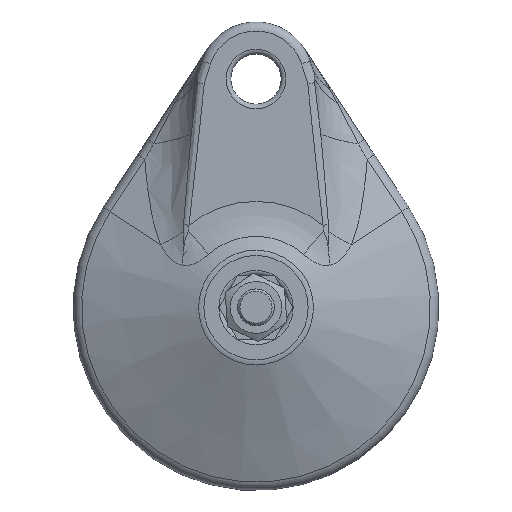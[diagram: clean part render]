
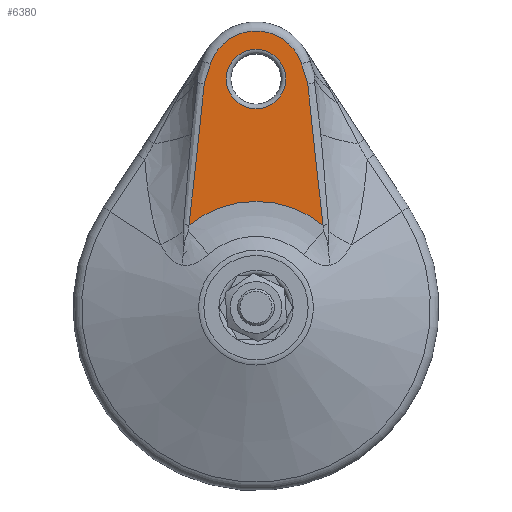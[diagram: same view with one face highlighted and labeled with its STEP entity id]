
A CAD part, top view. The second image highlights one B-rep face of the part: STEP entity #6380.
In plain terms, the highlighted planar face has unit normal (0, 0, 1).
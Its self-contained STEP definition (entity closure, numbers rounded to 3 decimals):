
#52=FACE_BOUND('',#1871,.T.);
#190=PLANE('',#7048);
#1560=FACE_OUTER_BOUND('',#1870,.T.);
#1870=EDGE_LOOP('',(#5263,#5264,#5265,#5266,#5267,#5268,#5269,#5270,#5271,
#5272));
#1871=EDGE_LOOP('',(#5273,#5274));
#2105=B_SPLINE_CURVE_WITH_KNOTS('',3,(#12278,#12279,#12280,#12281,#12282,
#12283,#12284,#12285,#12286,#12287),.UNSPECIFIED.,.F.,.F.,(4,2,2,2,4),(4.76,
5.372,10.744,16.117,19.872),
 .UNSPECIFIED.);
#2108=B_SPLINE_CURVE_WITH_KNOTS('',3,(#12361,#12362,#12363,#12364,#12365,
#12366),.UNSPECIFIED.,.F.,.F.,(4,2,4),(-11.228,0.,1.411),
 .UNSPECIFIED.);
#2111=B_SPLINE_CURVE_WITH_KNOTS('',3,(#12768,#12769,#12770,#12771,#12772,
#12773,#12774,#12775,#12776,#12777),.UNSPECIFIED.,.F.,.F.,(4,3,3,4),(-4.569,
-3.409,-2.248,0.),.UNSPECIFIED.);
#2143=B_SPLINE_CURVE_WITH_KNOTS('',3,(#16865,#16866,#16867,#16868,#16869,
#16870,#16871,#16872,#16873,#16874),.UNSPECIFIED.,.F.,.F.,(4,3,3,4),(-4.569,
-3.409,-2.248,0.),.UNSPECIFIED.);
#2144=B_SPLINE_CURVE_WITH_KNOTS('',3,(#16876,#16877,#16878,#16879,#16880,
#16881),.UNSPECIFIED.,.F.,.F.,(4,2,4),(-11.228,0.,1.411),
 .UNSPECIFIED.);
#2145=B_SPLINE_CURVE_WITH_KNOTS('',3,(#16884,#16885,#16886,#16887,#16888,
#16889,#16890,#16891,#16892,#16893),.UNSPECIFIED.,.F.,.F.,(4,2,2,2,4),(4.76,
5.372,10.744,16.117,19.872),
 .UNSPECIFIED.);
#2203=CIRCLE('',#6722,6.5);
#2204=CIRCLE('',#6723,6.5);
#2322=CIRCLE('',#6902,4408.891);
#2402=CIRCLE('',#7045,23.226);
#2405=CIRCLE('',#7049,10.5);
#2406=CIRCLE('',#7050,4408.891);
#2558=VERTEX_POINT('',#9276);
#2559=VERTEX_POINT('',#9277);
#2793=VERTEX_POINT('',#12059);
#2794=VERTEX_POINT('',#12275);
#2795=VERTEX_POINT('',#12276);
#2797=VERTEX_POINT('',#12329);
#2800=VERTEX_POINT('',#12766);
#2957=VERTEX_POINT('',#16848);
#2960=VERTEX_POINT('',#16862);
#2961=VERTEX_POINT('',#16864);
#2962=VERTEX_POINT('',#16875);
#2963=VERTEX_POINT('',#16882);
#3290=EDGE_CURVE('',#2558,#2559,#2203,.T.);
#3291=EDGE_CURVE('',#2559,#2558,#2204,.T.);
#3573=EDGE_CURVE('',#2794,#2795,#2322,.T.);
#3574=EDGE_CURVE('',#2795,#2793,#2105,.T.);
#3577=EDGE_CURVE('',#2797,#2794,#2108,.T.);
#3581=EDGE_CURVE('',#2800,#2797,#2111,.T.);
#3817=EDGE_CURVE('',#2793,#2957,#2402,.T.);
#3821=EDGE_CURVE('',#2800,#2960,#2405,.T.);
#3822=EDGE_CURVE('',#2960,#2961,#2143,.T.);
#3823=EDGE_CURVE('',#2961,#2962,#2144,.T.);
#3824=EDGE_CURVE('',#2962,#2963,#2406,.T.);
#3825=EDGE_CURVE('',#2963,#2957,#2145,.T.);
#5263=ORIENTED_EDGE('',*,*,#3817,.F.);
#5264=ORIENTED_EDGE('',*,*,#3574,.F.);
#5265=ORIENTED_EDGE('',*,*,#3573,.F.);
#5266=ORIENTED_EDGE('',*,*,#3577,.F.);
#5267=ORIENTED_EDGE('',*,*,#3581,.F.);
#5268=ORIENTED_EDGE('',*,*,#3821,.T.);
#5269=ORIENTED_EDGE('',*,*,#3822,.T.);
#5270=ORIENTED_EDGE('',*,*,#3823,.T.);
#5271=ORIENTED_EDGE('',*,*,#3824,.T.);
#5272=ORIENTED_EDGE('',*,*,#3825,.T.);
#5273=ORIENTED_EDGE('',*,*,#3290,.T.);
#5274=ORIENTED_EDGE('',*,*,#3291,.T.);
#6380=ADVANCED_FACE('',(#1560,#52),#190,.F.);
#6722=AXIS2_PLACEMENT_3D('',#9278,#7448,#7449);
#6723=AXIS2_PLACEMENT_3D('',#9279,#7450,#7451);
#6902=AXIS2_PLACEMENT_3D('',#12277,#7918,#7919);
#7045=AXIS2_PLACEMENT_3D('',#16849,#8320,#8321);
#7048=AXIS2_PLACEMENT_3D('',#16861,#8326,#8327);
#7049=AXIS2_PLACEMENT_3D('',#16863,#8328,#8329);
#7050=AXIS2_PLACEMENT_3D('',#16883,#8330,#8331);
#7448=DIRECTION('center_axis',(0.,0.,-1.));
#7449=DIRECTION('ref_axis',(0.,1.,0.));
#7450=DIRECTION('center_axis',(0.,0.,-1.));
#7451=DIRECTION('ref_axis',(0.,1.,0.));
#7918=DIRECTION('center_axis',(0.,0.,1.));
#7919=DIRECTION('ref_axis',(-0.994,-0.106,0.));
#8320=DIRECTION('center_axis',(0.,0.,1.));
#8321=DIRECTION('ref_axis',(-0.663,-0.749,0.));
#8326=DIRECTION('center_axis',(0.,0.,-1.));
#8327=DIRECTION('ref_axis',(-1.,0.,0.));
#8328=DIRECTION('center_axis',(0.,0.,1.));
#8329=DIRECTION('ref_axis',(-0.478,0.878,0.));
#8330=DIRECTION('center_axis',(0.,0.,-1.));
#8331=DIRECTION('ref_axis',(0.994,-0.106,0.));
#9276=CARTESIAN_POINT('',(0.,43.5,17.5));
#9277=CARTESIAN_POINT('',(6.5,50.,17.5));
#9278=CARTESIAN_POINT('Origin',(0.,50.,17.5));
#9279=CARTESIAN_POINT('Origin',(0.,50.,17.5));
#12059=CARTESIAN_POINT('',(14.659,18.016,17.5));
#12275=CARTESIAN_POINT('',(12.64,36.366,17.5));
#12276=CARTESIAN_POINT('',(12.995,33.037,17.5));
#12277=CARTESIAN_POINT('Origin',(4396.911,501.648,17.5));
#12278=CARTESIAN_POINT('Ctrl Pts',(12.995,33.037,17.5));
#12279=CARTESIAN_POINT('Ctrl Pts',(13.016,32.834,17.5));
#12280=CARTESIAN_POINT('Ctrl Pts',(13.038,32.631,17.5));
#12281=CARTESIAN_POINT('Ctrl Pts',(13.25,30.647,17.5));
#12282=CARTESIAN_POINT('Ctrl Pts',(13.442,28.867,17.5));
#12283=CARTESIAN_POINT('Ctrl Pts',(13.831,25.306,17.5));
#12284=CARTESIAN_POINT('Ctrl Pts',(14.027,23.526,17.5));
#12285=CARTESIAN_POINT('Ctrl Pts',(14.369,20.503,17.5));
#12286=CARTESIAN_POINT('Ctrl Pts',(14.512,19.259,17.5));
#12287=CARTESIAN_POINT('Ctrl Pts',(14.659,18.016,17.5));
#12329=CARTESIAN_POINT('',(11.317,48.936,17.5));
#12361=CARTESIAN_POINT('Ctrl Pts',(11.317,48.936,17.5));
#12362=CARTESIAN_POINT('Ctrl Pts',(11.706,45.214,17.5));
#12363=CARTESIAN_POINT('Ctrl Pts',(12.097,41.492,17.5));
#12364=CARTESIAN_POINT('Ctrl Pts',(12.541,37.302,17.5));
#12365=CARTESIAN_POINT('Ctrl Pts',(12.59,36.834,17.5));
#12366=CARTESIAN_POINT('Ctrl Pts',(12.64,36.366,17.5));
#12766=CARTESIAN_POINT('',(9.968,53.301,17.5));
#12768=CARTESIAN_POINT('Ctrl Pts',(9.968,53.301,17.5));
#12769=CARTESIAN_POINT('Ctrl Pts',(10.09,52.934,17.5));
#12770=CARTESIAN_POINT('Ctrl Pts',(10.21,52.567,17.5));
#12771=CARTESIAN_POINT('Ctrl Pts',(10.328,52.198,17.5));
#12772=CARTESIAN_POINT('Ctrl Pts',(10.447,51.83,17.5));
#12773=CARTESIAN_POINT('Ctrl Pts',(10.564,51.462,17.5));
#12774=CARTESIAN_POINT('Ctrl Pts',(10.678,51.092,17.5));
#12775=CARTESIAN_POINT('Ctrl Pts',(10.901,50.376,17.5));
#12776=CARTESIAN_POINT('Ctrl Pts',(11.115,49.658,17.5));
#12777=CARTESIAN_POINT('Ctrl Pts',(11.317,48.936,17.5));
#16848=CARTESIAN_POINT('',(-14.659,18.016,17.5));
#16849=CARTESIAN_POINT('Origin',(0.,0.,
17.5));
#16861=CARTESIAN_POINT('Origin',(0.,60.5,
17.5));
#16862=CARTESIAN_POINT('',(-9.967,53.301,17.5));
#16863=CARTESIAN_POINT('Origin',(0.,50.,
17.5));
#16864=CARTESIAN_POINT('',(-11.316,48.936,17.5));
#16865=CARTESIAN_POINT('Ctrl Pts',(-9.967,53.301,17.5));
#16866=CARTESIAN_POINT('Ctrl Pts',(-10.089,52.934,17.5));
#16867=CARTESIAN_POINT('Ctrl Pts',(-10.209,52.567,17.5));
#16868=CARTESIAN_POINT('Ctrl Pts',(-10.328,52.198,17.5));
#16869=CARTESIAN_POINT('Ctrl Pts',(-10.446,51.83,17.5));
#16870=CARTESIAN_POINT('Ctrl Pts',(-10.563,51.462,17.5));
#16871=CARTESIAN_POINT('Ctrl Pts',(-10.678,51.092,17.5));
#16872=CARTESIAN_POINT('Ctrl Pts',(-10.9,50.376,17.5));
#16873=CARTESIAN_POINT('Ctrl Pts',(-11.114,49.658,17.5));
#16874=CARTESIAN_POINT('Ctrl Pts',(-11.316,48.936,17.5));
#16875=CARTESIAN_POINT('',(-12.639,36.366,17.5));
#16876=CARTESIAN_POINT('Ctrl Pts',(-11.316,48.936,17.5));
#16877=CARTESIAN_POINT('Ctrl Pts',(-11.706,45.214,17.5));
#16878=CARTESIAN_POINT('Ctrl Pts',(-12.096,41.492,17.5));
#16879=CARTESIAN_POINT('Ctrl Pts',(-12.54,37.302,17.5));
#16880=CARTESIAN_POINT('Ctrl Pts',(-12.589,36.834,17.5));
#16881=CARTESIAN_POINT('Ctrl Pts',(-12.639,36.366,17.5));
#16882=CARTESIAN_POINT('',(-12.994,33.037,17.5));
#16883=CARTESIAN_POINT('Origin',(-4396.91,501.648,17.5));
#16884=CARTESIAN_POINT('Ctrl Pts',(-12.994,33.037,17.5));
#16885=CARTESIAN_POINT('Ctrl Pts',(-13.015,32.834,17.5));
#16886=CARTESIAN_POINT('Ctrl Pts',(-13.037,32.631,17.5));
#16887=CARTESIAN_POINT('Ctrl Pts',(-13.25,30.647,17.5));
#16888=CARTESIAN_POINT('Ctrl Pts',(-13.442,28.867,17.5));
#16889=CARTESIAN_POINT('Ctrl Pts',(-13.83,25.306,17.5));
#16890=CARTESIAN_POINT('Ctrl Pts',(-14.026,23.526,17.5));
#16891=CARTESIAN_POINT('Ctrl Pts',(-14.368,20.503,17.5));
#16892=CARTESIAN_POINT('Ctrl Pts',(-14.511,19.259,17.5));
#16893=CARTESIAN_POINT('Ctrl Pts',(-14.659,18.016,17.5));
